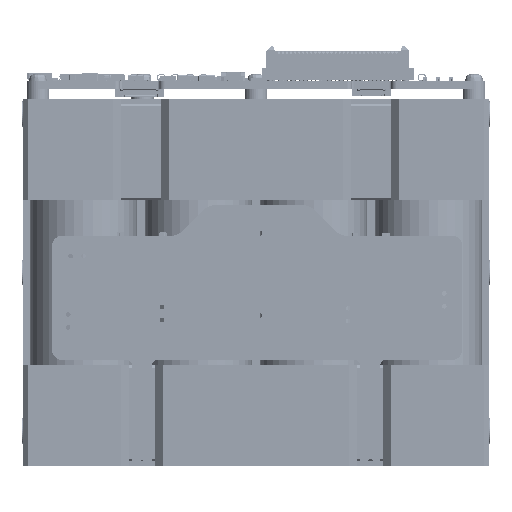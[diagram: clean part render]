
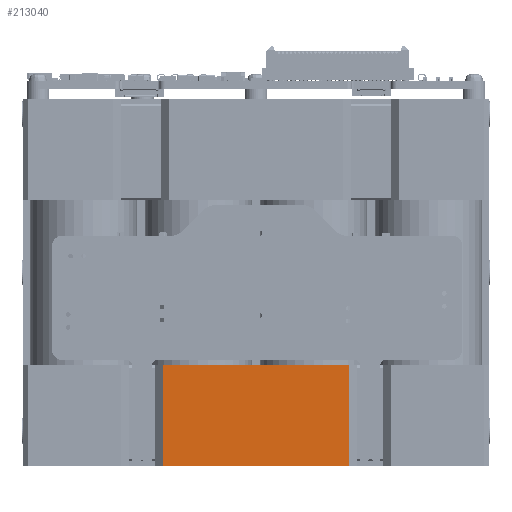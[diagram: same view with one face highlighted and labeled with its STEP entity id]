
A CAD part, front view. The second image highlights one B-rep face of the part: STEP entity #213040.
In plain terms, the highlighted planar face has unit normal (0, -1, 0) as drawn and (0, 0, -1) by its records, which use the part's own axes.
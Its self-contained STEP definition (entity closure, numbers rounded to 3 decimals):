
#16935 = DIRECTION ( 'NONE',  ( 0., -1., 0. ) ) ;
#18752 = DIRECTION ( 'NONE',  ( -1., 0., 0. ) ) ;
#22317 = DIRECTION ( 'NONE',  ( 1., 0., 0. ) ) ;
#23713 = CARTESIAN_POINT ( 'NONE',  ( 64.4, 20., -27. ) ) ;
#30091 = VECTOR ( 'NONE', #244276, 1000. ) ;
#47236 = DIRECTION ( 'NONE',  ( -1., 0., 0. ) ) ;
#49512 = VECTOR ( 'NONE', #47236, 1000. ) ;
#53526 = VERTEX_POINT ( 'NONE', #201806 ) ;
#59982 = AXIS2_PLACEMENT_3D ( 'NONE', #164606, #247150, #22317 ) ;
#63455 = LINE ( 'NONE', #265260, #185009 ) ;
#64911 = LINE ( 'NONE', #147573, #49512 ) ;
#81989 = FACE_OUTER_BOUND ( 'NONE', #159027, .T. ) ;
#97236 = ORIENTED_EDGE ( 'NONE', *, *, #118762, .T. ) ;
#102281 = LINE ( 'NONE', #199812, #116550 ) ;
#104108 = EDGE_CURVE ( 'NONE', #203733, #161170, #64911, .T. ) ;
#105302 = EDGE_CURVE ( 'NONE', #227086, #161170, #183352, .T. ) ;
#116550 = VECTOR ( 'NONE', #16935, 1000. ) ;
#118762 = EDGE_CURVE ( 'NONE', #53526, #227086, #63455, .T. ) ;
#147573 = CARTESIAN_POINT ( 'NONE',  ( 0., 20., -27. ) ) ;
#159027 = EDGE_LOOP ( 'NONE', ( #97236, #232822, #170889, #198862 ) ) ;
#161170 = VERTEX_POINT ( 'NONE', #219945 ) ;
#164606 = CARTESIAN_POINT ( 'NONE',  ( 0., 20., -27. ) ) ;
#165948 = PLANE ( 'NONE',  #59982 ) ;
#170889 = ORIENTED_EDGE ( 'NONE', *, *, #104108, .F. ) ;
#176511 = CARTESIAN_POINT ( 'NONE',  ( 27.6, 0., -27. ) ) ;
#183352 = LINE ( 'NONE', #265983, #30091 ) ;
#185009 = VECTOR ( 'NONE', #18752, 1000. ) ;
#198862 = ORIENTED_EDGE ( 'NONE', *, *, #228434, .T. ) ;
#199812 = CARTESIAN_POINT ( 'NONE',  ( 64.4, 20., -27. ) ) ;
#201806 = CARTESIAN_POINT ( 'NONE',  ( 64.4, 0., -27. ) ) ;
#203733 = VERTEX_POINT ( 'NONE', #23713 ) ;
#213040 = ADVANCED_FACE ( 'NONE', ( #81989 ), #165948, .F. ) ;
#219945 = CARTESIAN_POINT ( 'NONE',  ( 27.6, 20., -27. ) ) ;
#227086 = VERTEX_POINT ( 'NONE', #176511 ) ;
#228434 = EDGE_CURVE ( 'NONE', #203733, #53526, #102281, .T. ) ;
#232822 = ORIENTED_EDGE ( 'NONE', *, *, #105302, .T. ) ;
#244276 = DIRECTION ( 'NONE',  ( 0., 1., 0. ) ) ;
#247150 = DIRECTION ( 'NONE',  ( 0., 0., 1. ) ) ;
#265260 = CARTESIAN_POINT ( 'NONE',  ( 0., 0., -27. ) ) ;
#265983 = CARTESIAN_POINT ( 'NONE',  ( 27.6, 20., -27. ) ) ;
